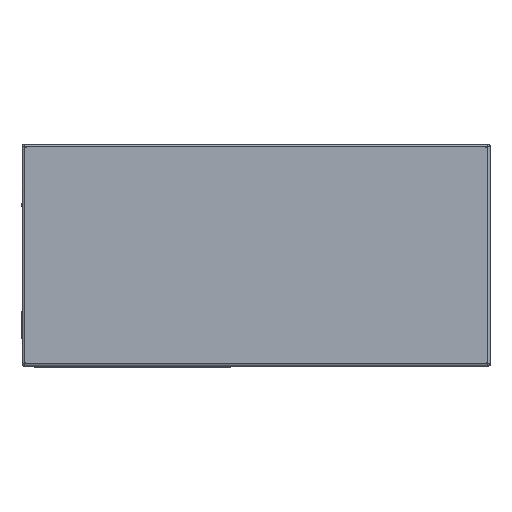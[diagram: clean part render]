
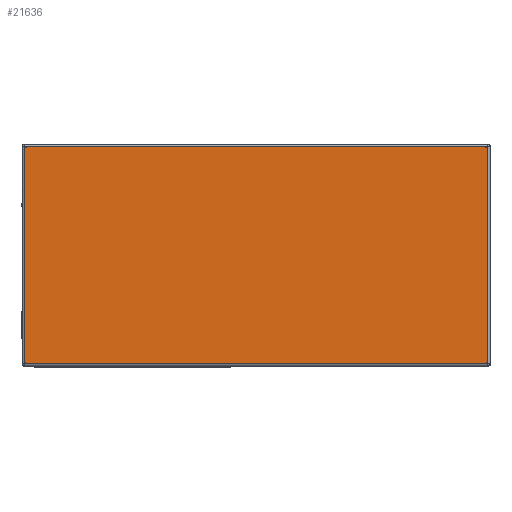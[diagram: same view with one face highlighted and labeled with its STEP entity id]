
A CAD part, top view. The second image highlights one B-rep face of the part: STEP entity #21636.
In plain terms, the highlighted planar face has unit normal (0, 0, 1).
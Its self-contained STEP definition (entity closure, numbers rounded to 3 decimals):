
#643 = EDGE_CURVE ( 'NONE', #9386, #22459, #17309, .T. ) ;
#829 = VERTEX_POINT ( 'NONE', #10181 ) ;
#2624 = ORIENTED_EDGE ( 'NONE', *, *, #23373, .T. ) ;
#6153 = LINE ( 'NONE', #32438, #14824 ) ;
#6854 = CARTESIAN_POINT ( 'NONE',  ( -44., -45., 321. ) ) ;
#7240 = VECTOR ( 'NONE', #22242, 1000. ) ;
#9132 = EDGE_CURVE ( 'NONE', #829, #13702, #18187, .T. ) ;
#9270 = AXIS2_PLACEMENT_3D ( 'NONE', #19802, #30278, #14642 ) ;
#9386 = VERTEX_POINT ( 'NONE', #21098 ) ;
#9484 = VECTOR ( 'NONE', #30434, 1000. ) ;
#10181 = CARTESIAN_POINT ( 'NONE',  ( -44., 44., 321. ) ) ;
#10206 = EDGE_CURVE ( 'NONE', #22459, #829, #6153, .T. ) ;
#11643 = DIRECTION ( 'NONE',  ( -1., 0., 0. ) ) ;
#12177 = DIRECTION ( 'NONE',  ( 0., -1., 0. ) ) ;
#12830 = CARTESIAN_POINT ( 'NONE',  ( -44., -44., 321. ) ) ;
#13702 = VERTEX_POINT ( 'NONE', #12830 ) ;
#14242 = LINE ( 'NONE', #27474, #7240 ) ;
#14642 = DIRECTION ( 'NONE',  ( 1., 0., 0. ) ) ;
#14824 = VECTOR ( 'NONE', #11643, 1000. ) ;
#17309 = LINE ( 'NONE', #32985, #9484 ) ;
#18060 = ORIENTED_EDGE ( 'NONE', *, *, #9132, .T. ) ;
#18187 = LINE ( 'NONE', #6854, #31232 ) ;
#19802 = CARTESIAN_POINT ( 'NONE',  ( 0., 0., 321. ) ) ;
#21098 = CARTESIAN_POINT ( 'NONE',  ( 144., -44., 321. ) ) ;
#21636 = ADVANCED_FACE ( 'NONE', ( #33130 ), #27671, .T. ) ;
#22242 = DIRECTION ( 'NONE',  ( 1., 0., 0. ) ) ;
#22459 = VERTEX_POINT ( 'NONE', #32067 ) ;
#23373 = EDGE_CURVE ( 'NONE', #13702, #9386, #14242, .T. ) ;
#26784 = ORIENTED_EDGE ( 'NONE', *, *, #643, .T. ) ;
#27445 = ORIENTED_EDGE ( 'NONE', *, *, #10206, .T. ) ;
#27474 = CARTESIAN_POINT ( 'NONE',  ( 145., -44., 321. ) ) ;
#27671 = PLANE ( 'NONE',  #9270 ) ;
#28737 = EDGE_LOOP ( 'NONE', ( #2624, #26784, #27445, #18060 ) ) ;
#30278 = DIRECTION ( 'NONE',  ( 0., 0., 1. ) ) ;
#30434 = DIRECTION ( 'NONE',  ( 0., 1., 0. ) ) ;
#31232 = VECTOR ( 'NONE', #12177, 1000. ) ;
#32067 = CARTESIAN_POINT ( 'NONE',  ( 144., 44., 321. ) ) ;
#32438 = CARTESIAN_POINT ( 'NONE',  ( -45., 44., 321. ) ) ;
#32985 = CARTESIAN_POINT ( 'NONE',  ( 144., 45., 321. ) ) ;
#33130 = FACE_OUTER_BOUND ( 'NONE', #28737, .T. ) ;
